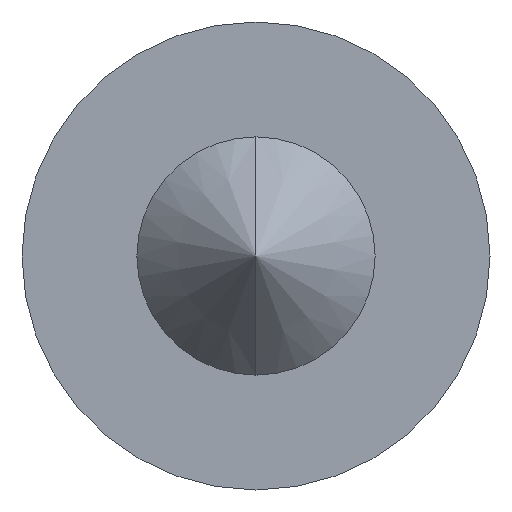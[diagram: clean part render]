
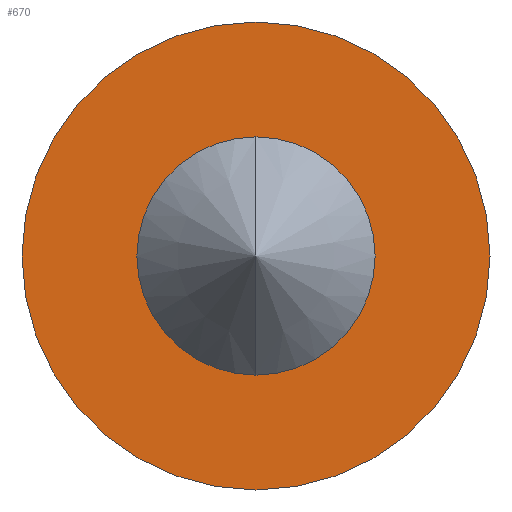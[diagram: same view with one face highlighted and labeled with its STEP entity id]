
A CAD part, left-side view. The second image highlights one B-rep face of the part: STEP entity #670.
In plain terms, the highlighted planar face has unit normal (-1, 0, 0).
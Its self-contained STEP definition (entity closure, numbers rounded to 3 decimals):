
#72 = DIRECTION ( 'NONE',  ( -1., 0., 0. ) ) ;
#78 = VERTEX_POINT ( 'NONE', #1457 ) ;
#99 = ORIENTED_EDGE ( 'NONE', *, *, #1197, .F. ) ;
#112 = CARTESIAN_POINT ( 'NONE',  ( -0.947, 0., -2.75 ) ) ;
#137 = ORIENTED_EDGE ( 'NONE', *, *, #658, .F. ) ;
#171 = DIRECTION ( 'NONE',  ( 0., 0., 1. ) ) ;
#193 = DIRECTION ( 'NONE',  ( -1., 0., 0. ) ) ;
#220 = AXIS2_PLACEMENT_3D ( 'NONE', #1751, #1222, #1565 ) ;
#304 = EDGE_CURVE ( 'NONE', #469, #2232, #537, .T. ) ;
#319 = CIRCLE ( 'NONE', #1838, 1.124 ) ;
#324 = EDGE_CURVE ( 'NONE', #2232, #469, #454, .T. ) ;
#361 = DIRECTION ( 'NONE',  ( 0., 0., 1. ) ) ;
#392 = ORIENTED_EDGE ( 'NONE', *, *, #324, .T. ) ;
#454 = CIRCLE ( 'NONE', #1522, 2.75 ) ;
#469 = VERTEX_POINT ( 'NONE', #112 ) ;
#537 = CIRCLE ( 'NONE', #1901, 2.75 ) ;
#658 = EDGE_CURVE ( 'NONE', #1619, #78, #727, .T. ) ;
#670 = ADVANCED_FACE ( 'NONE', ( #2155, #2062 ), #1314, .F. ) ;
#699 = CARTESIAN_POINT ( 'NONE',  ( -0.947, 0., -1.124 ) ) ;
#727 = CIRCLE ( 'NONE', #1942, 1.124 ) ;
#798 = CARTESIAN_POINT ( 'NONE',  ( -0.947, 0., 0. ) ) ;
#871 = CARTESIAN_POINT ( 'NONE',  ( -0.947, 0., 0. ) ) ;
#1197 = EDGE_CURVE ( 'NONE', #78, #1619, #319, .T. ) ;
#1222 = DIRECTION ( 'NONE',  ( 1., 0., 0. ) ) ;
#1225 = EDGE_LOOP ( 'NONE', ( #99, #137 ) ) ;
#1314 = PLANE ( 'NONE',  #220 ) ;
#1351 = DIRECTION ( 'NONE',  ( 0., 0., 1. ) ) ;
#1448 = CARTESIAN_POINT ( 'NONE',  ( -0.947, 0., 0. ) ) ;
#1457 = CARTESIAN_POINT ( 'NONE',  ( -0.947, 0., 1.124 ) ) ;
#1491 = DIRECTION ( 'NONE',  ( -1., 0., 0. ) ) ;
#1504 = CARTESIAN_POINT ( 'NONE',  ( -0.947, 0., 0. ) ) ;
#1522 = AXIS2_PLACEMENT_3D ( 'NONE', #798, #1491, #1351 ) ;
#1565 = DIRECTION ( 'NONE',  ( 0., 0., -1. ) ) ;
#1619 = VERTEX_POINT ( 'NONE', #699 ) ;
#1629 = DIRECTION ( 'NONE',  ( 0., 0., 1. ) ) ;
#1682 = CARTESIAN_POINT ( 'NONE',  ( -0.947, 0., 2.75 ) ) ;
#1718 = ORIENTED_EDGE ( 'NONE', *, *, #304, .T. ) ;
#1751 = CARTESIAN_POINT ( 'NONE',  ( -0.947, 2.75, 0. ) ) ;
#1838 = AXIS2_PLACEMENT_3D ( 'NONE', #1504, #72, #361 ) ;
#1901 = AXIS2_PLACEMENT_3D ( 'NONE', #1448, #193, #1629 ) ;
#1942 = AXIS2_PLACEMENT_3D ( 'NONE', #871, #1982, #171 ) ;
#1982 = DIRECTION ( 'NONE',  ( -1., 0., 0. ) ) ;
#2062 = FACE_OUTER_BOUND ( 'NONE', #2187, .T. ) ;
#2155 = FACE_BOUND ( 'NONE', #1225, .T. ) ;
#2187 = EDGE_LOOP ( 'NONE', ( #392, #1718 ) ) ;
#2232 = VERTEX_POINT ( 'NONE', #1682 ) ;
